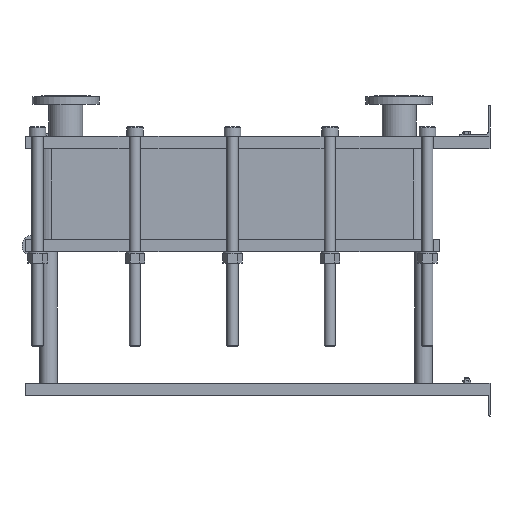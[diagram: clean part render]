
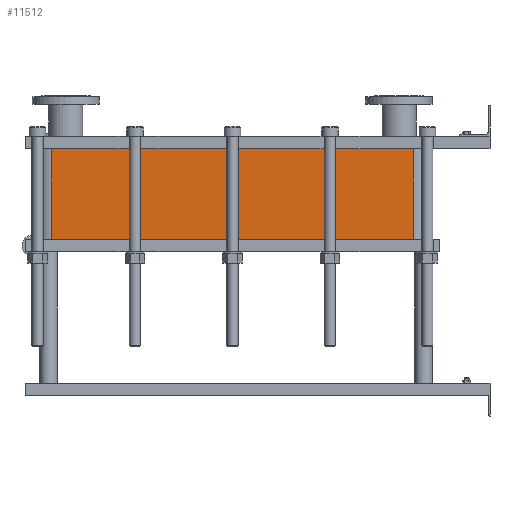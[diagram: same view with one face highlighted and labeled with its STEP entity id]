
A CAD part, left-side view. The second image highlights one B-rep face of the part: STEP entity #11512.
In plain terms, the highlighted planar face has unit normal (-1, 0, 0).
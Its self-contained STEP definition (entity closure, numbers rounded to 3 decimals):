
#1129=LINE('',#23232,#2102);
#1130=LINE('',#23236,#2103);
#1131=LINE('',#23238,#2104);
#1132=LINE('',#23239,#2105);
#2102=VECTOR('',#15887,10.);
#2103=VECTOR('',#15892,10.);
#2104=VECTOR('',#15893,10.);
#2105=VECTOR('',#15894,10.);
#3267=FACE_OUTER_BOUND('',#4093,.T.);
#4093=EDGE_LOOP('',(#10103,#10104,#10105,#10106));
#5642=VERTEX_POINT('',#23229);
#5643=VERTEX_POINT('',#23231);
#5644=VERTEX_POINT('',#23235);
#5645=VERTEX_POINT('',#23237);
#7159=EDGE_CURVE('',#5643,#5642,#1129,.T.);
#7161=EDGE_CURVE('',#5642,#5644,#1130,.T.);
#7162=EDGE_CURVE('',#5645,#5644,#1131,.T.);
#7163=EDGE_CURVE('',#5645,#5643,#1132,.T.);
#10103=ORIENTED_EDGE('',*,*,#7161,.T.);
#10104=ORIENTED_EDGE('',*,*,#7162,.F.);
#10105=ORIENTED_EDGE('',*,*,#7163,.T.);
#10106=ORIENTED_EDGE('',*,*,#7159,.T.);
#10857=PLANE('',#12751);
#11512=ADVANCED_FACE('',(#3267),#10857,.T.);
#12751=AXIS2_PLACEMENT_3D('',#23234,#15890,#15891);
#15887=DIRECTION('',(0.,0.,-1.));
#15890=DIRECTION('center_axis',(-1.,0.,0.));
#15891=DIRECTION('ref_axis',(0.,1.,0.));
#15892=DIRECTION('',(0.,-1.,0.));
#15893=DIRECTION('',(0.,0.,-1.));
#15894=DIRECTION('',(0.,1.,0.));
#23229=CARTESIAN_POINT('',(-200.,1414.,-293.25));
#23231=CARTESIAN_POINT('',(-200.,1414.,0.));
#23232=CARTESIAN_POINT('',(-200.,1414.,0.));
#23234=CARTESIAN_POINT('Origin',(-200.,248.,0.));
#23235=CARTESIAN_POINT('',(-200.,248.,-293.25));
#23236=CARTESIAN_POINT('',(-200.,539.5,-293.25));
#23237=CARTESIAN_POINT('',(-200.,248.,0.));
#23238=CARTESIAN_POINT('',(-200.,248.,0.));
#23239=CARTESIAN_POINT('',(-200.,248.,0.));
